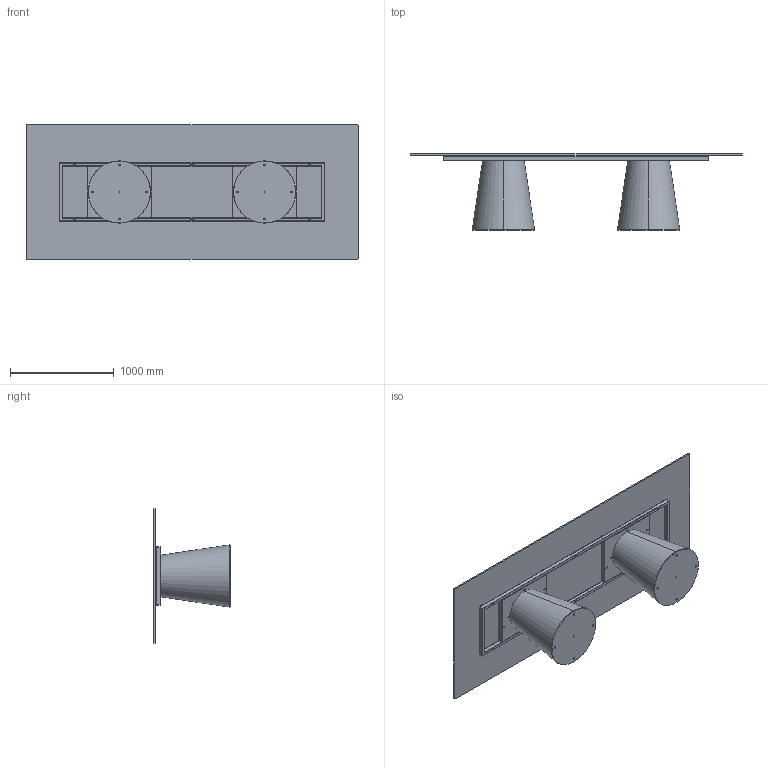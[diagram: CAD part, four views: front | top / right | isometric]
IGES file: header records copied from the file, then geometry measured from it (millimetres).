
Start section: SolidWorks IGES file using analytic representation for surfaces
Global section: file name: Y:\eforma\TECNICO\SOLIDWORKS\E-FORMA\1-TAVOLI\TEO\08 modelli 3D web\TO25G_Teo_320x130_Glass Rectangular.IGS; native system: SolidWorks 2022; preprocessor: SolidWorks 2022; author: eforma.tech; date: 240802.113556; units: millimetre
Bounding box: 3200 x 738.19 x 1300 mm (x, y, z)
Volume: 122961888.6 mm3; surface area: 18094721 mm2
Topology: 32 solids, 32 shells, 862 faces, 1952 edges, 1144 vertices
Faces by surface type: revolution 436, plane 426
